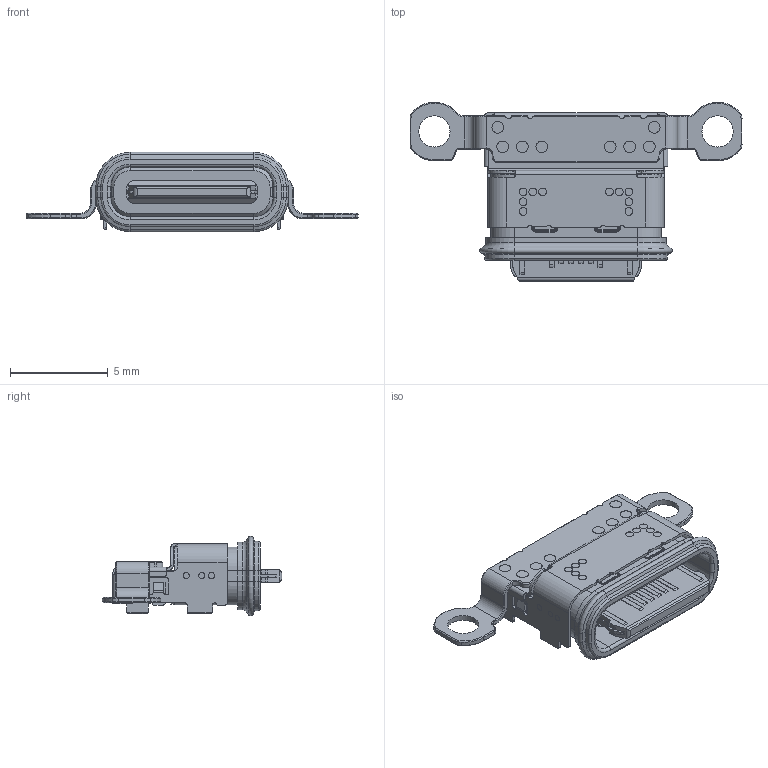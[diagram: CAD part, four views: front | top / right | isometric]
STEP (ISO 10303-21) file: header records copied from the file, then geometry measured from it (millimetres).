
FILE_DESCRIPTION(('Creo Elements/Direct Modeling STEP Export'),'2;1');
FILE_NAME('TYPE-C-16P防水-有固定片-B款-3D.stp','2026-01-06T 9:58:12',(''),(''),'PTC Creo Elements/Direct Modeling STEP processor for AP214 (Solid Model)','PTC Creo Elements/Direct Modeling 19.0 09-May-2014 (C) Parametric Technology GmbH','');
FILE_SCHEMA(('AUTOMOTIVE_DESIGN { 1 0 10303 214 1 1 1 1 }'));
Length unit declared in the file: millimetre
Products named in the file (3): TYPE-C-16P-3D; TYPE-C-16P防水-3D.stp
Assembly tree (2 placements, depth 3):
  TYPE-C-16P防水-3D.stp
    TYPE-C-16P-3D
      TYPE-C-16P-3D
Bounding box: 17 x 9.2 x 4.07 mm (x, y, z)
Volume: 120.1 mm3; surface area: 687.1 mm2
Topology: 1 solids, 4 shells, 1377 faces, 3692 edges, 2345 vertices
Faces by surface type: plane 779, cylinder 413, cone 82, torus 64, bspline 18, sphere 18, extrusion 3
Entity records: 45429 total; most frequent: CARTESIAN_POINT 8661, ORIENTED_EDGE 7388, DIRECTION 6971, EDGE_CURVE 3690, VECTOR 2439, LINE 2436, VERTEX_POINT 2345, AXIS2_PLACEMENT_3D 2266
